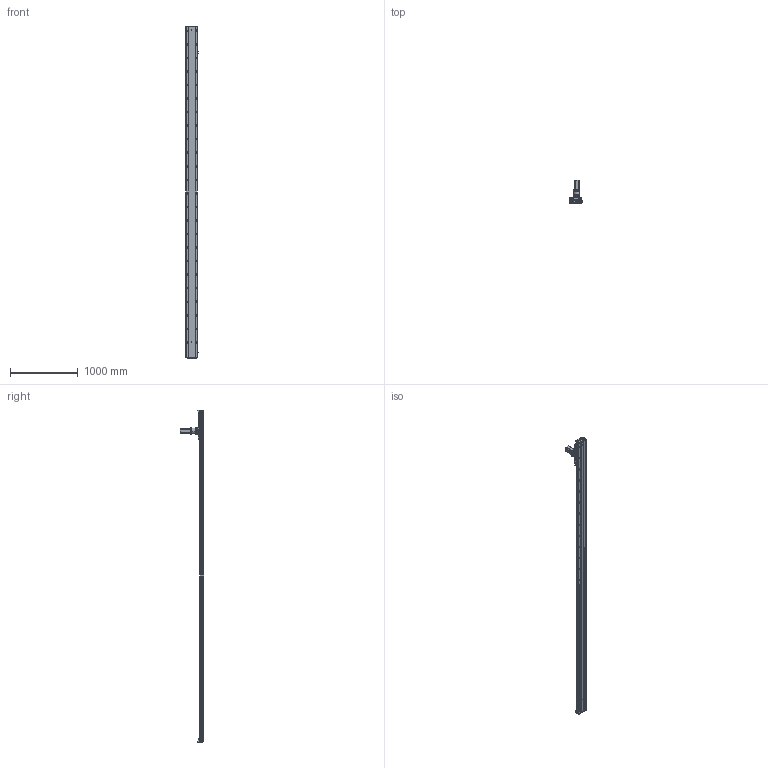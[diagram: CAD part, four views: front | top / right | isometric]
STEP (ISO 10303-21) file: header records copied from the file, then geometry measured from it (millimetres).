
FILE_DESCRIPTION (( 'STEP AP203' ), '1' );
FILE_NAME ('RY170-C-1000-UK.SLDASM_4400.step', '2021-03-03T00:50:31', ( '盈信电脑' ), ( '东莞市道滘镇水果街19号' ), 'SwSTEP 2.0', 'SolidWorks 2012', '' );
FILE_SCHEMA (( 'CONFIG_CONTROL_DESIGN' ));
Length unit declared in the file: millimetre
Products named in the file (13): RY170-C-1000-UK.SLDASM_4400; 左旋斜齿齿轮_M2_22齿_内孔20; TF080等撰; RY170-喘沭賑輸; RY170-喘沭滅袉蝶輸; RY170外置感应片(200共用）; 怢湛750W萇儂ㄗ80遺ㄘ; RY170-喘謫萇儂覃誹啣; RY170綴裔啣ㄗ蜊秶ㄘ; 絳寢賑輸EGH20CA; RY170-1000-喘沭耀郪絳寢EGH20CA_4400; 覜茼ん672; RY170-1000齿条模组型材底座_4400
Assembly tree (22 placements, depth 2):
  RY170-C-1000-UK.SLDASM_4400
    RY170-1000齿条模组型材底座_4400
    絳寢賑輸EGH20CA  x6
    RY170-1000-喘沭耀郪絳寢EGH20CA_4400  x2
    RY170綴裔啣ㄗ蜊秶ㄘ  x2
    覜茼ん672  x3
    RY170外置感应片(200共用）
    RY170-喘謫萇儂覃誹啣
    怢湛750W萇儂ㄗ80遺ㄘ
    RY170-喘沭滅袉蝶輸  x2
    TF080等撰
    左旋斜齿齿轮_M2_22齿_内孔20
    RY170-喘沭賑輸
Bounding box: 188.7 x 343.5 x 4900 mm (x, y, z)
Volume: 23092930.3 mm3; surface area: 6111456.7 mm2
Topology: 24 solids, 24 shells, 5619 faces, 16186 edges, 10255 vertices
Faces by surface type: cylinder 2530, plane 2509, cone 526, bspline 50, torus 4
Entity records: 134982 total; most frequent: CARTESIAN_POINT 34183, ORIENTED_EDGE 21390, DIRECTION 20370, EDGE_CURVE 10695, AXIS2_PLACEMENT_3D 7685, VERTEX_POINT 6945, VECTOR 5000, LINE 5000
